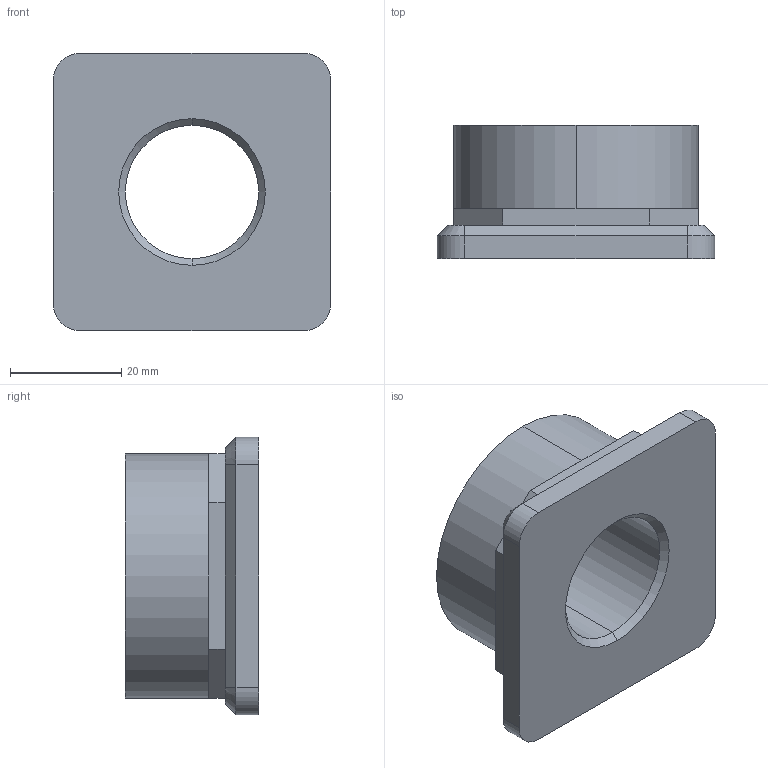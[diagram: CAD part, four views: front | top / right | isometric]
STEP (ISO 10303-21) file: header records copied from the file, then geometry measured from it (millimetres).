
FILE_DESCRIPTION (( 'STEP AP203' ), '1' );
FILE_NAME ('34670.W0055.step', '2017-06-26T08:14:47', ( 'User' ), ( '' ), 'SwSTEP 2.0', 'SolidWorks 2009', '' );
FILE_SCHEMA (( 'CONFIG_CONTROL_DESIGN' ));
Length unit declared in the file: millimetre
Products named in the file (1): 34670.W0055
Bounding box: 50 x 24 x 50 mm (x, y, z)
Volume: 31707.6 mm3; surface area: 9227.6 mm2
Topology: 1 solids, 1 shells, 39 faces, 90 edges, 54 vertices
Faces by surface type: plane 23, cone 8, cylinder 8
Entity records: 1167 total; most frequent: DIRECTION 196, CARTESIAN_POINT 184, ORIENTED_EDGE 180, EDGE_CURVE 90, AXIS2_PLACEMENT_3D 66, VECTOR 64, LINE 64, VERTEX_POINT 54
